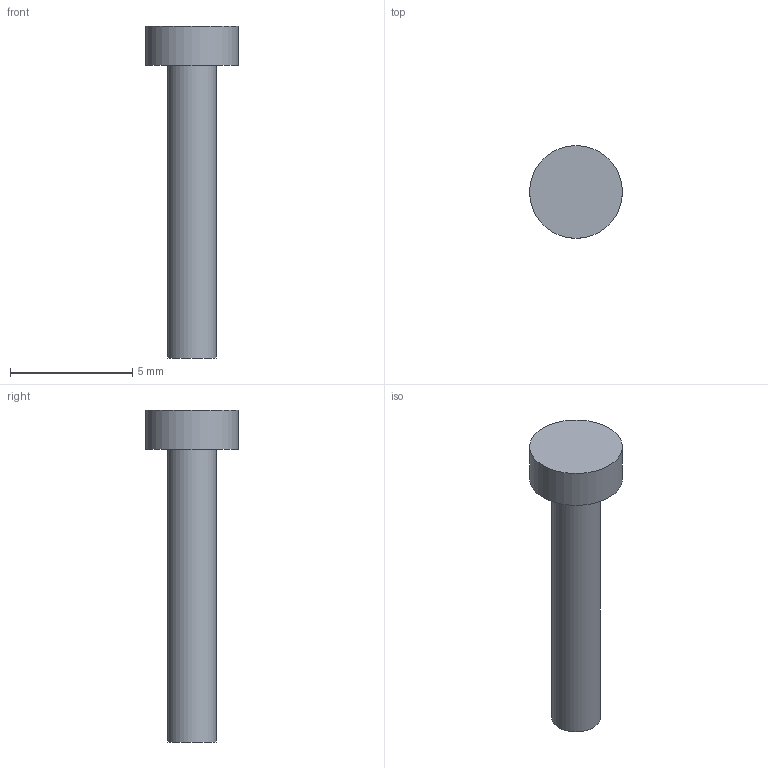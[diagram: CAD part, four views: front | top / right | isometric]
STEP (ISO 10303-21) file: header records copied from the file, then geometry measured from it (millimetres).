
FILE_DESCRIPTION(('Open CASCADE Model'),'2;1');
FILE_NAME('Open CASCADE Shape Model','2026-10-17T16:39:47',('Author'),( 'Open CASCADE'),'Open CASCADE STEP processor 7.9','Open CASCADE 7.9' ,'Unknown');
FILE_SCHEMA(('AUTOMOTIVE_DESIGN { 1 0 10303 214 1 1 1 1 }'));
Length unit declared in the file: millimetre
Products named in the file (1): Open CASCADE STEP translator 7.9 20
Bounding box: 3.8 x 3.8 x 13.6 mm (x, y, z)
Volume: 55.8 mm3; surface area: 117.2 mm2
Topology: 1 solids, 1 shells, 5 faces, 6 edges, 4 vertices
Faces by surface type: plane 3, cylinder 2
Full cylindrical faces by diameter (mm): 2 x1, 3.8 x1
Entity records: 204 total; most frequent: CARTESIAN_POINT 52, DIRECTION 30, ORIENTED_EDGE 12, PCURVE 12, DEFINITIONAL_REPRESENTATION 12, AXIS2_PLACEMENT_3D 10, LINE 10, VECTOR 10
